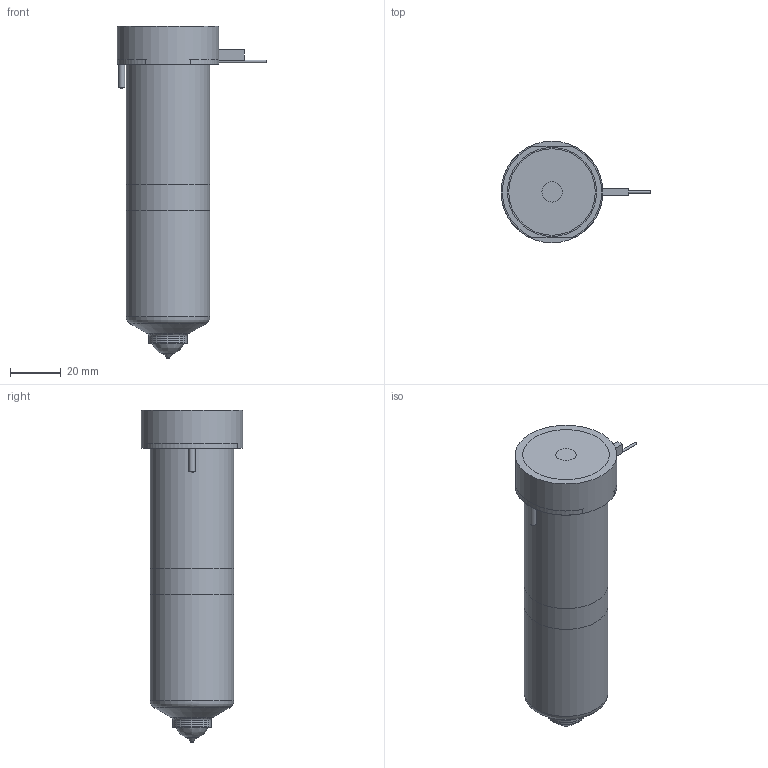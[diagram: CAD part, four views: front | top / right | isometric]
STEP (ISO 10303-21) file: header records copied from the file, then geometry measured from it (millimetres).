
FILE_DESCRIPTION(/* description */ (''),/* implementation_level */ '2;1');
FILE_NAME(/* name */ 'BXOT19115_200C_b',/* time_stamp */ '2007-01-18T08:46:48+13:00',/* author */ (''),/* organization */ (''),/* preprocessor_version */ 'ST-DEVELOPER v9',/* originating_system */ 'UGS - NX 4.0',/* authorisation */ '');
FILE_SCHEMA (('CONFIG_CONTROL_DESIGN'));
Length unit declared in the file: millimetre
Products named in the file (1): BXOT19115_200C_b
Bounding box: 58.85 x 40 x 130.5 mm (x, y, z)
Volume: 201186.1 mm3; surface area: 33524.8 mm2
Topology: 6 solids, 6 shells, 83 faces, 165 edges, 105 vertices
Faces by surface type: plane 36, cylinder 25, cone 11, torus 8, bspline 3
Full cylindrical faces by diameter (mm): 1 x3, 1.2 x1, 2.5 x2, 8 x1, 10.8 x1, 11 x1, 14.61 x1, 15.01 x2, 18.3 x1, 28.6 x1, 33 x2, 40 x1
Entity records: 2086 total; most frequent: CARTESIAN_POINT 457, DIRECTION 342, ORIENTED_EDGE 238, AXIS2_PLACEMENT_3D 152, EDGE_LOOP 130, EDGE_CURVE 119, VERTEX_POINT 96, ADVANCED_FACE 83
